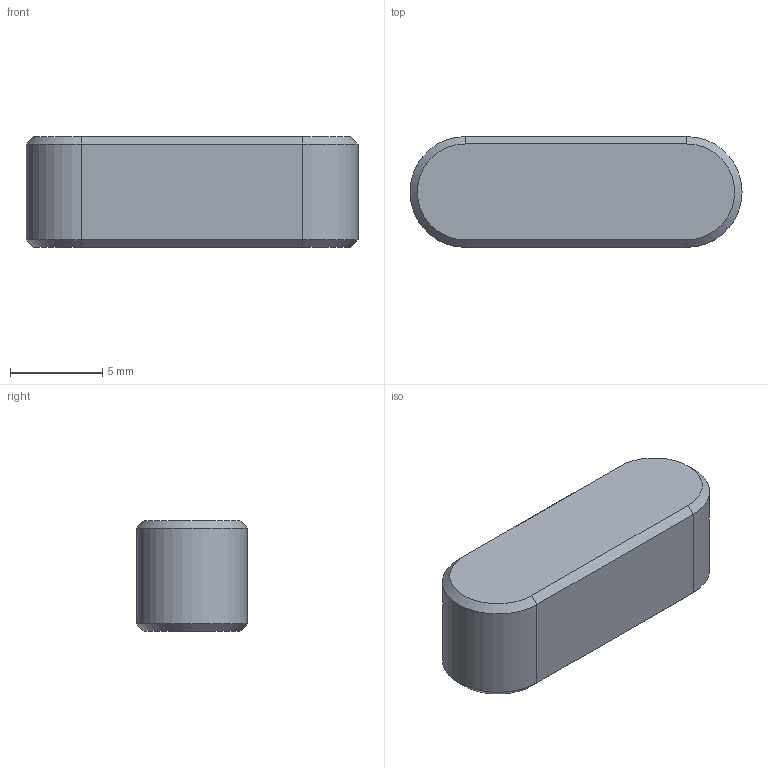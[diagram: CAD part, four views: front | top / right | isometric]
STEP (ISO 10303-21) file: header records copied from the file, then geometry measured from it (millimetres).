
FILE_DESCRIPTION(/* description */ ('키 및 해당 키홈'),/* implementation_level */ '2;1');
FILE_NAME(/* name */ '',/* time_stamp */ '2026-09-29T15:28:25+09:00',/* author */ ('jhkim'),/* organization */ (''),/* preprocessor_version */ 'ST-DEVELOPER v20.1',/* originating_system */ 'Autodesk Inventor 2027',/* authorisation */ '');
FILE_SCHEMA (('AUTOMOTIVE_DESIGN { 1 0 10303 214 3 1 1 }'));
Length unit declared in the file: millimetre
Products named in the file (1): 평행 키 6x6x18
Bounding box: 18 x 6 x 6 mm (x, y, z)
Volume: 594.9 mm3; surface area: 437.1 mm2
Topology: 1 solids, 1 shells, 14 faces, 28 edges, 16 vertices
Faces by surface type: plane 8, cone 4, cylinder 2
Entity records: 399 total; most frequent: DIRECTION 66, CARTESIAN_POINT 59, ORIENTED_EDGE 56, EDGE_CURVE 28, AXIS2_PLACEMENT_3D 23, LINE 20, VECTOR 20, VERTEX_POINT 16
